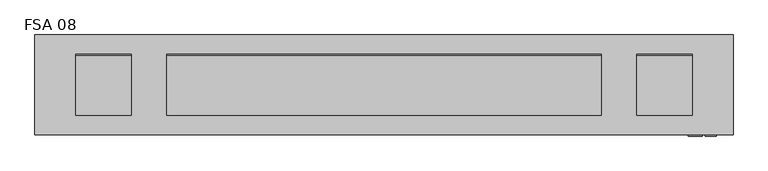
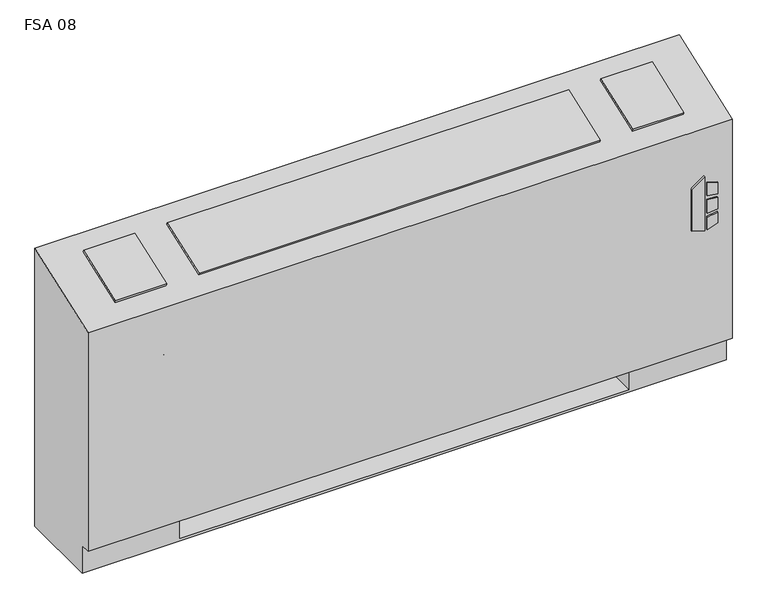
"""IFC4 building model written with IfcOpenShell, lengths in millimetres: proxy geometry, Vertical_Fan_Coil_Unit_-_FSA_-_IEC_-_4-Pipe_TS-FR_LH_2022 : FSA 08."""

from ifc_helpers import new_model, si_unit, point, frame, frame_2d, origin, place, context, project, spatial, polyline, circle_curve, trimmed, segment, composite_curve, outline, extrude, source, transform, mapped, element, save
from ifc_brep_helpers import plane_surface, revolved_surface, advanced_brep


def fsa_08_8577ad06(model_context):
    return source(origin(), model_context, "Body", "SolidModel", [
        extrude(outline(polyline([(391.6086829, 849.3868862), (381.6606126, 881.5602728), (523.831537, 881.5602728), (500.8095309, 849.3868862), (391.6086829, 849.3868862)])), frame((0.0, 12.7, 0.0), z_axis=(0.0, 1.0, 0.0), x_axis=(0.0, 0.0, 1.0)), (0.0, 0.0, 1.0), 3.175),
        extrude(outline(polyline([(470.6079683, 888.3186058), (467.4055757, 914.4), (496.6344168, 914.4), (504.6988318, 888.3186058), (470.6079683, 888.3186058)])), frame((0.0, 12.7, 0.0), z_axis=(0.0, 1.0, 0.0), x_axis=(0.0, 0.0, 1.0)), (0.0, 0.0, 1.0), 3.175),
        extrude(outline(polyline([(418.7444414, 914.4), (415.0789404, 888.3186058), (381.6606126, 888.3186058), (390.2948498, 914.4), (418.7444414, 914.4)])), frame((0.0, 12.7, 0.0), z_axis=(0.0, 1.0, 0.0), x_axis=(0.0, 0.0, 1.0)), (0.0, 0.0, 1.0), 3.175),
        extrude(outline(polyline([(458.0596028, 914.4), (460.3414292, 888.3186058), (424.4038806, 888.3186058), (427.1451456, 914.4), (458.0596028, 914.4)])), frame((0.0, 12.7, 0.0), z_axis=(0.0, 1.0, 0.0), x_axis=(0.0, 0.0, 1.0)), (0.0, 0.0, 1.0), 3.175),
        extrude(outline(polyline([(831.85, 223.266), (831.85, 81.534), (711.2, 81.534), (711.2, 223.266), (831.85, 223.266)])), frame((0.0, 0.0, 327.025), z_axis=(0.0, 0.0, 1.0), x_axis=(1.0, 0.0, 0.0)), (0.0, 0.0, 1.0), 260.35),
        extrude(outline(composite_curve([segment(trimmed(circle_curve(frame_2d((-469.9, 130.175)), 9.525), [point((-479.425, 130.175))], [point((-460.375, 130.175))], False, "CARTESIAN"), True, "CONTINUOUS"), segment(trimmed(circle_curve(frame_2d((-469.9, 130.175)), 9.525), [point((-460.375, 130.175))], [point((-479.425, 130.175))], False, "CARTESIAN"), True, "CONTINUOUS")], self_intersect=False)), frame((0.0, 0.0, 101.6), z_axis=(0.0, 0.0, 1.0), x_axis=(1.0, 0.0, 0.0)), (0.0, 0.0, 1.0), 25.4),
        extrude(outline(polyline([(-571.5, 63.5), (-571.5, 196.85), (-406.4, 196.85), (-406.4, 63.5), (-571.5, 63.5)])), frame((0.0, 0.0, 127.0), z_axis=(0.0, 0.0, 1.0), x_axis=(1.0, 0.0, 0.0)), (0.0, 0.0, 1.0), 50.8),
        extrude(outline(polyline([(0.0, -146.0500001), (0.0, 0.0), (127.0, 0.0), (127.0, -146.0500001), (0.0, -146.0500001)])), frame((-553.593, 200.4217127, 714.3418685), z_axis=(0.0, -0.3396444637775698, 0.9405538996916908), x_axis=(1.0, 0.0, 0.0)), (0.0, 0.0, 1.0), 6.35),
        extrude(outline(polyline([(0.0, -146.0500001), (0.0, 0.0), (996.95, 0.0), (996.95, -146.0500001), (0.0, -146.0500001)])), frame((650.875, 63.0538156, 664.7367945), z_axis=(0.0, -0.33964446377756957, 0.9405538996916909), x_axis=(-1.0, 0.0, 0.0)), (0.0, 0.0, 1.0), 6.35),
        extrude(outline(polyline([(0.0, -146.0500001), (0.0, 0.0), (127.0, 0.0), (127.0, -146.0500001), (0.0, -146.0500001)])), frame((858.393, 63.0538156, 664.7367945), z_axis=(0.0, -0.3396444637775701, 0.9405538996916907), x_axis=(-1.0, 0.0, 0.0)), (0.0, 0.0, 1.0), 6.35),
        extrude(outline(composite_curve([segment(trimmed(circle_curve(frame_2d((109.0168, 457.2)), 7.9375), [point((109.0168, 465.1375))], [point((109.0168, 449.2625))], False, "CARTESIAN"), True, "CONTINUOUS"), segment(trimmed(circle_curve(frame_2d((109.0168, 457.2)), 7.9375), [point((109.0168, 449.2625))], [point((109.0168, 465.1375))], False, "CARTESIAN"), True, "CONTINUOUS")], self_intersect=False)), frame((-457.2, 0.0, 0.0), z_axis=(1.0, 0.0, 0.0), x_axis=(0.0, 1.0, 0.0)), (0.0, 0.0, 1.0), 50.8),
        extrude(outline(composite_curve([segment(trimmed(circle_curve(frame_2d((172.085, 460.0194)), 7.9375), [point((172.085, 467.9569))], [point((172.085, 452.0819))], False, "CARTESIAN"), True, "CONTINUOUS"), segment(trimmed(circle_curve(frame_2d((172.085, 460.0194)), 7.9375), [point((172.085, 452.0819))], [point((172.085, 467.9569))], False, "CARTESIAN"), True, "CONTINUOUS")], self_intersect=False)), frame((-457.2, 0.0, 0.0), z_axis=(1.0, 0.0, 0.0), x_axis=(0.0, 1.0, 0.0)), (0.0, 0.0, 1.0), 50.8),
        extrude(outline(composite_curve([segment(trimmed(circle_curve(frame_2d((130.175, 554.99)), 7.9502), [point((130.175, 562.9402))], [point((130.175, 547.0398))], False, "CARTESIAN"), True, "CONTINUOUS"), segment(trimmed(circle_curve(frame_2d((130.175, 554.99)), 7.9502), [point((130.175, 547.0398))], [point((130.175, 562.9402))], False, "CARTESIAN"), True, "CONTINUOUS")], self_intersect=False)), frame((-457.2, 0.0, 0.0), z_axis=(1.0, 0.0, 0.0), x_axis=(0.0, 1.0, 0.0)), (0.0, 0.0, 1.0), 50.8),
        extrude(outline(composite_curve([segment(trimmed(circle_curve(frame_2d((53.975, 416.56)), 7.9502), [point((53.975, 424.5102))], [point((53.975, 408.6098))], False, "CARTESIAN"), True, "CONTINUOUS"), segment(trimmed(circle_curve(frame_2d((53.975, 416.56)), 7.9502), [point((53.975, 408.6098))], [point((53.975, 424.5102))], False, "CARTESIAN"), True, "CONTINUOUS")], self_intersect=False)), frame((-457.2, 0.0, 0.0), z_axis=(1.0, 0.0, 0.0), x_axis=(0.0, 1.0, 0.0)), (0.0, 0.0, 1.0), 50.8),
        advanced_brep(
        [(-647.7, 244.475, 0.0), (952.5, 244.475, 0.0), (952.5, 41.275, 0.0), (-647.7, 41.275, 0.0), (-647.7, 244.475, 730.25), (952.5, 244.475, 730.25), (711.2, 244.475, 73.025), (939.8, 244.475, 73.025), (939.8, 244.475, 654.05), (711.2, 244.475, 654.05), (711.2, 244.475, 414.8650565), (739.775, 244.475, 414.8650565), (739.775, 244.475, 385.2349435), (711.2, 244.475, 385.2349435), (711.2, 244.475, 287.3375), (739.775, 244.475, 287.3375), (739.775, 244.475, 258.7625), (711.2, 244.475, 258.7625), (711.2, 244.475, 141.2875), (739.775, 244.475, 141.2875), (739.775, 244.475, 112.7125), (711.2, 244.475, 112.7125), (-406.4, 244.475, 654.05), (-635.0, 244.475, 654.05), (-635.0, 244.475, 73.025), (-406.4, 244.475, 73.025), (-406.4, 244.475, 112.7125), (-434.975, 244.475, 112.7125), (-434.975, 244.475, 141.2875), (-406.4, 244.475, 141.2875), (-406.4, 244.475, 258.7625), (-434.975, 244.475, 258.7625), (-434.975, 244.475, 287.3375), (-406.4, 244.475, 287.3375), (-406.4, 244.475, 385.2349435), (-434.975, 244.475, 385.2349435), (-434.975, 244.475, 414.8650565), (-406.4, 244.475, 414.8650565), (729.4626, 244.475, 127.0), (718.3374, 244.475, 127.0), (729.4626, 244.475, 400.05), (718.3374, 244.475, 400.05), (729.4626, 244.475, 273.05), (718.3374, 244.475, 273.05), (-413.5374, 244.475, 127.0), (-424.6626, 244.475, 127.0), (-413.5374, 244.475, 273.05), (-424.6626, 244.475, 273.05), (-413.5374, 244.475, 400.05), (-424.6626, 244.475, 400.05), (-647.7, 41.275, 73.025), (-647.7, 15.875, 73.025), (-647.7, 15.875, 647.7), (952.5, 15.875, 73.025), (952.5, 15.875, 647.7), (952.5, 41.275, 73.025), (-406.4, 41.275, 73.025), (-406.4, 225.425, 73.025), (711.2, 225.425, 73.025), (711.2, 41.275, 73.025), (711.2, 41.275, 6.35), (-406.4, 41.275, 6.35), (711.2, 41.275, 654.05), (939.8, 41.275, 654.05), (939.8, 41.275, 73.025), (711.2, 41.275, 73.025), (-406.4, 41.275, 654.05), (-406.4, 41.275, 73.025), (-635.0, 41.275, 73.025), (-635.0, 41.275, 654.05), (711.2, 225.425, 73.025), (711.2, 238.125, 112.7125), (711.2, 238.125, 141.2875), (711.2, 238.125, 258.7625), (711.2, 238.125, 287.3375), (711.2, 238.125, 385.2349435), (711.2, 238.125, 414.8650565), (-406.4, 225.425, 73.025), (-406.4, 238.125, 414.8650565), (-406.4, 238.125, 385.2349435), (-406.4, 238.125, 287.3375), (-406.4, 238.125, 258.7625), (-406.4, 238.125, 141.2875), (-406.4, 238.125, 112.7125), (-406.4, 225.425, 6.35), (711.2, 225.425, 6.35), (739.775, 238.125, 112.7125), (739.775, 238.125, 141.2875), (718.3374, 238.125, 127.0), (729.4626, 238.125, 127.0), (739.775, 238.125, 258.7625), (739.775, 238.125, 287.3375), (718.3374, 238.125, 273.05), (729.4626, 238.125, 273.05), (739.775, 238.125, 385.2349435), (739.775, 238.125, 414.8650565), (718.3374, 238.125, 400.05), (729.4626, 238.125, 400.05), (-434.975, 238.125, 141.2875), (-434.975, 238.125, 112.7125), (-424.6626, 238.125, 127.0), (-413.5374, 238.125, 127.0), (-434.975, 238.125, 287.3375), (-434.975, 238.125, 258.7625), (-424.6626, 238.125, 273.05), (-413.5374, 238.125, 273.05), (-434.975, 238.125, 414.8650565), (-434.975, 238.125, 385.2349435), (-424.6626, 238.125, 400.05), (-413.5374, 238.125, 400.05)],
        [
            (0, 1),
            (1, 2),
            (2, 3),
            (3, 0),
            (0, 4),
            (4, 5),
            (5, 1),
            (6, 7),
            (7, 8),
            (8, 9),
            (9, 10),
            (10, 11),
            (11, 12),
            (12, 13),
            (13, 14),
            (14, 15),
            (15, 16),
            (16, 17),
            (17, 18),
            (18, 19),
            (19, 20),
            (20, 21),
            (21, 6),
            (22, 23),
            (23, 24),
            (24, 25),
            (25, 26),
            (26, 27),
            (27, 28),
            (28, 29),
            (29, 30),
            (30, 31),
            (31, 32),
            (32, 33),
            (33, 34),
            (34, 35),
            (35, 36),
            (36, 37),
            (37, 22),
            (38, 39, circle_curve(frame((723.9, 244.475, 127.0), z_axis=(0.0, -1.0, 0.0), x_axis=(-1.0, 0.0, 0.0)), 5.5626)),
            (39, 38, circle_curve(frame((723.9, 244.475, 127.0), z_axis=(0.0, -1.0, 0.0), x_axis=(-1.0, 0.0, 0.0)), 5.5626)),
            (40, 41, circle_curve(frame((723.9, 244.475, 400.05), z_axis=(0.0, -1.0, 0.0), x_axis=(-1.0, 0.0, 0.0)), 5.5626)),
            (41, 40, circle_curve(frame((723.9, 244.475, 400.05), z_axis=(0.0, -1.0, 0.0), x_axis=(-1.0, 0.0, 0.0)), 5.5626)),
            (42, 43, circle_curve(frame((723.9, 244.475, 273.05), z_axis=(0.0, -1.0, 0.0), x_axis=(-1.0, 0.0, 0.0)), 5.5626)),
            (43, 42, circle_curve(frame((723.9, 244.475, 273.05), z_axis=(0.0, -1.0, 0.0), x_axis=(-1.0, 0.0, 0.0)), 5.5626)),
            (44, 45, circle_curve(frame((-419.1, 244.475, 127.0), z_axis=(0.0, -1.0, 0.0), x_axis=(-1.0, 0.0, 0.0)), 5.5626)),
            (45, 44, circle_curve(frame((-419.1, 244.475, 127.0), z_axis=(0.0, -1.0, 0.0), x_axis=(-1.0, 0.0, 0.0)), 5.5626)),
            (46, 47, circle_curve(frame((-419.1, 244.475, 273.05), z_axis=(0.0, -1.0, 0.0), x_axis=(-1.0, 0.0, 0.0)), 5.5626)),
            (47, 46, circle_curve(frame((-419.1, 244.475, 273.05), z_axis=(0.0, -1.0, 0.0), x_axis=(-1.0, 0.0, 0.0)), 5.5626)),
            (48, 49, circle_curve(frame((-419.1, 244.475, 400.05), z_axis=(0.0, -1.0, 0.0), x_axis=(-1.0, 0.0, 0.0)), 5.5626)),
            (49, 48, circle_curve(frame((-419.1, 244.475, 400.05), z_axis=(0.0, -1.0, 0.0), x_axis=(-1.0, 0.0, 0.0)), 5.5626)),
            (3, 50),
            (50, 51),
            (51, 52),
            (52, 4),
            (51, 53),
            (53, 54),
            (54, 52),
            (5, 54),
            (53, 55),
            (55, 2),
            (50, 56),
            (56, 57),
            (57, 58),
            (58, 59),
            (59, 55),
            (59, 60),
            (60, 61),
            (61, 56),
            (62, 63),
            (63, 64),
            (64, 65),
            (65, 62),
            (66, 67),
            (67, 68),
            (68, 69),
            (69, 66),
            (65, 70),
            (70, 6),
            (21, 71),
            (71, 72),
            (72, 18),
            (17, 73),
            (73, 74),
            (74, 14),
            (13, 75),
            (75, 76),
            (76, 10),
            (9, 62),
            (64, 7),
            (63, 8),
            (69, 23),
            (22, 66),
            (68, 24),
            (67, 77),
            (77, 25),
            (37, 78),
            (78, 79),
            (79, 34),
            (33, 80),
            (80, 81),
            (81, 30),
            (29, 82),
            (82, 83),
            (83, 26),
            (57, 84),
            (84, 85),
            (85, 58),
            (85, 60),
            (84, 61),
            (71, 86),
            (86, 87),
            (87, 72),
            (88, 89, circle_curve(frame((723.9, 238.125, 127.0), z_axis=(0.0, 1.0, 0.0), x_axis=(-1.0, 0.0, 0.0)), 5.5626)),
            (89, 88, circle_curve(frame((723.9, 238.125, 127.0), z_axis=(0.0, 1.0, 0.0), x_axis=(-1.0, 0.0, 0.0)), 5.5626)),
            (73, 90),
            (90, 91),
            (91, 74),
            (92, 93, circle_curve(frame((723.9, 238.125, 273.05), z_axis=(0.0, 1.0, 0.0), x_axis=(-1.0, 0.0, 0.0)), 5.5626)),
            (93, 92, circle_curve(frame((723.9, 238.125, 273.05), z_axis=(0.0, 1.0, 0.0), x_axis=(-1.0, 0.0, 0.0)), 5.5626)),
            (75, 94),
            (94, 95),
            (95, 76),
            (96, 97, circle_curve(frame((723.9, 238.125, 400.05), z_axis=(0.0, 1.0, 0.0), x_axis=(-1.0, 0.0, 0.0)), 5.5626)),
            (97, 96, circle_curve(frame((723.9, 238.125, 400.05), z_axis=(0.0, 1.0, 0.0), x_axis=(-1.0, 0.0, 0.0)), 5.5626)),
            (98, 99),
            (99, 83),
            (82, 98),
            (100, 101, circle_curve(frame((-419.1, 238.125, 127.0), z_axis=(0.0, 1.0, 0.0), x_axis=(-1.0, 0.0, 0.0)), 5.5626)),
            (101, 100, circle_curve(frame((-419.1, 238.125, 127.0), z_axis=(0.0, 1.0, 0.0), x_axis=(-1.0, 0.0, 0.0)), 5.5626)),
            (102, 103),
            (103, 81),
            (80, 102),
            (104, 105, circle_curve(frame((-419.1, 238.125, 273.05), z_axis=(0.0, 1.0, 0.0), x_axis=(-1.0, 0.0, 0.0)), 5.5626)),
            (105, 104, circle_curve(frame((-419.1, 238.125, 273.05), z_axis=(0.0, 1.0, 0.0), x_axis=(-1.0, 0.0, 0.0)), 5.5626)),
            (106, 107),
            (107, 79),
            (78, 106),
            (108, 109, circle_curve(frame((-419.1, 238.125, 400.05), z_axis=(0.0, 1.0, 0.0), x_axis=(-1.0, 0.0, 0.0)), 5.5626)),
            (109, 108, circle_curve(frame((-419.1, 238.125, 400.05), z_axis=(0.0, 1.0, 0.0), x_axis=(-1.0, 0.0, 0.0)), 5.5626)),
            (87, 19),
            (86, 20),
            (91, 15),
            (90, 16),
            (95, 11),
            (94, 12),
            (28, 98),
            (99, 27),
            (32, 102),
            (103, 31),
            (36, 106),
            (107, 35),
            (88, 39),
            (38, 89),
            (96, 41),
            (40, 97),
            (92, 43),
            (42, 93),
            (100, 45),
            (44, 101),
            (104, 47),
            (46, 105),
            (108, 49),
            (48, 109),
        ],
        [
            plane_surface(frame((-647.7, 244.475, 0.0), z_axis=(0.0, 0.0, -1.0), x_axis=(1.0, 0.0, 0.0))),
            plane_surface(frame((952.5, 244.475, 730.25), z_axis=(0.0, 1.0, 0.0), x_axis=(0.0, 0.0, -1.0))),
            plane_surface(frame((-647.7, 244.475, 730.25), z_axis=(-1.0, 0.0, 0.0), x_axis=(0.0, 0.0, -1.0))),
            plane_surface(frame((-647.7, 15.875, 730.25), z_axis=(0.0, -1.0, 0.0), x_axis=(0.0, 0.0, -1.0))),
            plane_surface(frame((952.5, 15.875, 730.25), z_axis=(1.0, 0.0, 0.0), x_axis=(0.0, 0.0, -1.0))),
            plane_surface(frame((-647.7, 15.875, 73.025), z_axis=(0.0, 0.0, -1.0), x_axis=(1.0, 0.0, 0.0))),
            plane_surface(frame((-647.7, 41.275, 73.025), z_axis=(0.0, -1.0, 0.0), x_axis=(1.0, 0.0, 0.0))),
            plane_surface(frame((711.2, 41.275, 654.05), z_axis=(0.0, 1.0, 0.0), x_axis=(0.0, 0.0, -1.0))),
            plane_surface(frame((711.2, 41.275, 654.05), z_axis=(1.0, 0.0, 0.0), x_axis=(0.0, 1.0, 0.0))),
            plane_surface(frame((711.2, 41.275, 73.025), z_axis=(0.0, 0.0, 1.0), x_axis=(0.0, 1.0, 0.0))),
            plane_surface(frame((939.8, 41.275, 73.025), z_axis=(-1.0, 0.0, 0.0), x_axis=(0.0, 1.0, 0.0))),
            plane_surface(frame((939.8, 41.275, 654.05), z_axis=(0.0, 0.0, -1.0), x_axis=(0.0, 1.0, 0.0))),
            plane_surface(frame((-406.4, 41.275, 654.05), z_axis=(0.0, 0.0, -1.0), x_axis=(0.0, 1.0, 0.0))),
            plane_surface(frame((-635.0, 41.275, 654.05), z_axis=(1.0, 0.0, 0.0), x_axis=(0.0, 1.0, 0.0))),
            plane_surface(frame((-635.0, 41.275, 73.025), z_axis=(0.0, 0.0, 1.0), x_axis=(0.0, 1.0, 0.0))),
            plane_surface(frame((-406.4, 41.275, 73.025), z_axis=(-1.0, 0.0, 0.0), x_axis=(0.0, 1.0, 0.0))),
            plane_surface(frame((711.2, 225.425, 73.025), z_axis=(0.0, -1.0, 0.0), x_axis=(0.0, 0.0, -1.0))),
            plane_surface(frame((711.2, 225.425, 73.025), z_axis=(-1.0, 0.0, 0.0), x_axis=(0.0, -1.0, 0.0))),
            plane_surface(frame((711.2, 225.425, 6.35), z_axis=(0.0, 0.0, 1.0), x_axis=(0.0, -1.0, 0.0))),
            plane_surface(frame((-406.4, 225.425, 6.35), z_axis=(1.0, 0.0, 0.0), x_axis=(0.0, -1.0, 0.0))),
            plane_surface(frame((739.775, 238.125, 141.2875), z_axis=(0.0, -1.0, 0.0), x_axis=(-1.0, 0.0, 0.0))),
            plane_surface(frame((711.2, 244.475, 141.2875), z_axis=(0.0, 0.0, 1.0), x_axis=(0.0, -1.0, 0.0))),
            plane_surface(frame((739.775, 244.475, 141.2875), z_axis=(1.0, 0.0, 0.0), x_axis=(0.0, -1.0, 0.0))),
            plane_surface(frame((739.775, 244.475, 112.7125), z_axis=(0.0, 0.0, -1.0), x_axis=(0.0, -1.0, 0.0))),
            plane_surface(frame((711.2, 244.475, 287.3375), z_axis=(0.0, 0.0, 1.0), x_axis=(0.0, -1.0, 0.0))),
            plane_surface(frame((739.775, 244.475, 287.3375), z_axis=(1.0, 0.0, 0.0), x_axis=(0.0, -1.0, 0.0))),
            plane_surface(frame((739.775, 244.475, 258.7625), z_axis=(0.0, 0.0, -1.0), x_axis=(0.0, -1.0, 0.0))),
            plane_surface(frame((711.2, 244.475, 414.8650565), z_axis=(0.0, 0.0, 1.0), x_axis=(0.0, -1.0, 0.0))),
            plane_surface(frame((739.775, 244.475, 414.8650565), z_axis=(1.0, 0.0, 0.0), x_axis=(0.0, -1.0, 0.0))),
            plane_surface(frame((739.775, 244.475, 385.2349435), z_axis=(0.0, 0.0, -1.0), x_axis=(0.0, -1.0, 0.0))),
            plane_surface(frame((-434.975, 244.475, 141.2875), z_axis=(0.0, 0.0, 1.0), x_axis=(0.0, -1.0, 0.0))),
            plane_surface(frame((-406.4, 244.475, 112.7125), z_axis=(0.0, 0.0, -1.0), x_axis=(0.0, -1.0, 0.0))),
            plane_surface(frame((-434.975, 244.475, 112.7125), z_axis=(-1.0, 0.0, 0.0), x_axis=(0.0, -1.0, 0.0))),
            plane_surface(frame((-434.975, 244.475, 287.3375), z_axis=(0.0, 0.0, 1.0), x_axis=(0.0, -1.0, 0.0))),
            plane_surface(frame((-406.4, 244.475, 258.7625), z_axis=(0.0, 0.0, -1.0), x_axis=(0.0, -1.0, 0.0))),
            plane_surface(frame((-434.975, 244.475, 258.7625), z_axis=(-1.0, 0.0, 0.0), x_axis=(0.0, -1.0, 0.0))),
            plane_surface(frame((-434.975, 244.475, 414.8650565), z_axis=(0.0, 0.0, 1.0), x_axis=(0.0, -1.0, 0.0))),
            plane_surface(frame((-406.4, 244.475, 385.2349435), z_axis=(0.0, 0.0, -1.0), x_axis=(0.0, -1.0, 0.0))),
            plane_surface(frame((-434.975, 244.475, 385.2349435), z_axis=(-1.0, 0.0, 0.0), x_axis=(0.0, -1.0, 0.0))),
            revolved_surface(polyline([(718.3374, 238.125, 127.0), (718.3374, 244.475, 127.0)]), (723.9, 244.475, 127.0), (0.0, -1.0, 0.0)),
            revolved_surface(polyline([(718.3374, 238.125, 400.05), (718.3374, 244.475, 400.05)]), (723.9, 244.475, 400.05), (0.0, -1.0, 0.0)),
            revolved_surface(polyline([(718.3374, 238.125, 273.05), (718.3374, 244.475, 273.05)]), (723.9, 244.475, 273.05), (0.0, -1.0, 0.0)),
            revolved_surface(polyline([(-424.6626, 238.125, 127.0), (-424.6626, 244.475, 127.0)]), (-419.1, 244.475, 127.0), (0.0, -1.0, 0.0)),
            revolved_surface(polyline([(-424.6626, 238.125, 273.05), (-424.6626, 244.475, 273.05)]), (-419.1, 244.475, 273.05), (0.0, -1.0, 0.0)),
            revolved_surface(polyline([(-424.6626, 238.125, 400.05), (-424.6626, 244.475, 400.05)]), (-419.1, 244.475, 400.05), (0.0, -1.0, 0.0)),
            plane_surface(frame((-647.7, 244.475, 730.25), z_axis=(0.0, -0.33964446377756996, 0.9405538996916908), x_axis=(1.0, 0.0, 0.0))),
        ],
        [
            (0, [[1, 2, 3, 4]]),
            (1, [[-1, 5, 6, 7], [8, 9, 10, 11, 12, 13, 14, 15, 16, 17, 18, 19, 20, 21, 22, 23], [24, 25, 26, 27, 28, 29, 30, 31, 32, 33, 34, 35, 36, 37, 38, 39], [40, 41], [42, 43], [44, 45], [46, 47], [48, 49], [50, 51]]),
            (2, [[-5, -4, 52, 53, 54, 55]]),
            (3, [[56, 57, 58, -54]]),
            (4, [[-7, 59, -57, 60, 61, -2]]),
            (5, [[-53, 62, 63, 64, 65, 66, -60, -56]]),
            (6, [[-3, -61, -66, 67, 68, 69, -62, -52]]),
            (7, [[70, 71, 72, 73]]),
            (7, [[74, 75, 76, 77]]),
            (8, [[-73, 78, 79, -23, 80, 81, 82, -19, 83, 84, 85, -15, 86, 87, 88, -11, 89]]),
            (9, [[-72, 90, -8, -79, -78]]),
            (10, [[-71, 91, -9, -90]]),
            (11, [[-70, -89, -10, -91]]),
            (12, [[-77, 92, -24, 93]]),
            (13, [[-76, 94, -25, -92]]),
            (14, [[-75, 95, 96, -26, -94]]),
            (15, [[-74, -93, -39, 97, 98, 99, -35, 100, 101, 102, -31, 103, 104, 105, -27, -96, -95]]),
            (16, [[-64, 106, 107, 108]]),
            (17, [[-108, 109, -67, -65]]),
            (18, [[-107, 110, -68, -109]]),
            (19, [[-106, -63, -69, -110]]),
            (20, [[111, 112, 113, -81], [114, 115]]),
            (20, [[116, 117, 118, -84], [119, 120]]),
            (20, [[121, 122, 123, -87], [124, 125]]),
            (20, [[126, 127, -104, 128], [129, 130]]),
            (20, [[131, 132, -101, 133], [134, 135]]),
            (20, [[136, 137, -98, 138], [139, 140]]),
            (21, [[-113, 141, -20, -82]]),
            (22, [[-112, 142, -21, -141]]),
            (23, [[-111, -80, -22, -142]]),
            (24, [[-118, 143, -16, -85]]),
            (25, [[-117, 144, -17, -143]]),
            (26, [[-116, -83, -18, -144]]),
            (27, [[-123, 145, -12, -88]]),
            (28, [[-122, 146, -13, -145]]),
            (29, [[-121, -86, -14, -146]]),
            (30, [[-128, -103, -30, 147]]),
            (31, [[-127, 148, -28, -105]]),
            (32, [[-126, -147, -29, -148]]),
            (33, [[-133, -100, -34, 149]]),
            (34, [[-132, 150, -32, -102]]),
            (35, [[-131, -149, -33, -150]]),
            (36, [[-138, -97, -38, 151]]),
            (37, [[-137, 152, -36, -99]]),
            (38, [[-136, -151, -37, -152]]),
            (39, [[153, -40, 154, -114]]),
            (39, [[-153, -115, -154, -41]]),
            (40, [[155, -42, 156, -124]]),
            (40, [[-155, -125, -156, -43]]),
            (41, [[157, -44, 158, -119]]),
            (41, [[-157, -120, -158, -45]]),
            (42, [[159, -46, 160, -129]]),
            (42, [[-159, -130, -160, -47]]),
            (43, [[161, -48, 162, -134]]),
            (43, [[-161, -135, -162, -49]]),
            (44, [[163, -50, 164, -139]]),
            (44, [[-163, -140, -164, -51]]),
            (45, [[-6, -55, -58, -59]]),
        ],
    ),
    ])


if __name__ == "__main__":
    model = new_model("IFC4")
    model_context = context("Model", 3, world=origin())
    ifc_project = project(units=[si_unit("LENGTHUNIT", "METRE", prefix="MILLI")], contexts=[model_context])
    site = spatial("IfcSite", under=ifc_project)
    building = spatial("IfcBuilding", under=site)
    placement = place(None, origin())
    fsa_08_shape = fsa_08_8577ad06(model_context)
    element("IfcBuildingElementProxy", 1, Name="Vertical_Fan_Coil_Unit_-_FSA_-_IEC_-_4-Pipe_TS-FR_LH_2022 : FSA 08", ObjectType="Vertical_Fan_Coil_Unit_-_FSA_-_IEC_-_4-Pipe_TS-FR_LH_2022 : FSA 08", at=placement, inside=building, context=model_context, shape_type="MappedRepresentation", body=[
        mapped(fsa_08_shape, transform((0.0, 0.0, 0.0), x_axis=(1.0, 0.0, 0.0), y_axis=(0.0, 1.0, 0.0), z_axis=(0.0, 0.0, 1.0))),
    ])
    save(model, "model.ifc")
